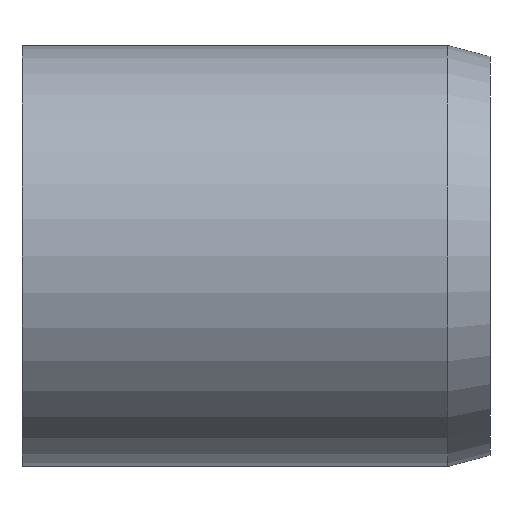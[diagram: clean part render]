
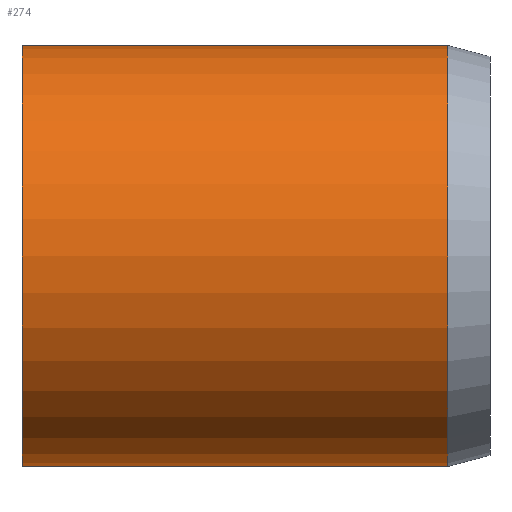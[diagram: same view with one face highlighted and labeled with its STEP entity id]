
A CAD part, left-side view. The second image highlights one B-rep face of the part: STEP entity #274.
In plain terms, the highlighted cylindrical face has radius 9 mm (diameter 18 mm), a partial arc.
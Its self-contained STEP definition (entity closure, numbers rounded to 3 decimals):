
#27 = LINE ( 'NONE', #279, #176 ) ;
#36 = CARTESIAN_POINT ( 'NONE',  ( 0., 1.8, 9. ) ) ;
#39 = EDGE_LOOP ( 'NONE', ( #212, #180, #81, #324 ) ) ;
#53 = DIRECTION ( 'NONE',  ( 0., -1., 0. ) ) ;
#59 = DIRECTION ( 'NONE',  ( 0., -1., 0. ) ) ;
#61 = CIRCLE ( 'NONE', #426, 9. ) ;
#65 = EDGE_CURVE ( 'NONE', #223, #288, #317, .T. ) ;
#66 = CARTESIAN_POINT ( 'NONE',  ( 0., 0., 9. ) ) ;
#69 = CARTESIAN_POINT ( 'NONE',  ( 0., 0., 0. ) ) ;
#81 = ORIENTED_EDGE ( 'NONE', *, *, #379, .T. ) ;
#111 = VERTEX_POINT ( 'NONE', #390 ) ;
#121 = CARTESIAN_POINT ( 'NONE',  ( 0., 1.8, 0. ) ) ;
#151 = DIRECTION ( 'NONE',  ( 0., -1., 0. ) ) ;
#159 = AXIS2_PLACEMENT_3D ( 'NONE', #121, #53, #410 ) ;
#176 = VECTOR ( 'NONE', #151, 1000. ) ;
#179 = EDGE_CURVE ( 'NONE', #111, #435, #61, .T. ) ;
#180 = ORIENTED_EDGE ( 'NONE', *, *, #179, .T. ) ;
#203 = VECTOR ( 'NONE', #207, 1000. ) ;
#207 = DIRECTION ( 'NONE',  ( 0., -1., 0. ) ) ;
#212 = ORIENTED_EDGE ( 'NONE', *, *, #298, .F. ) ;
#213 = FACE_OUTER_BOUND ( 'NONE', #39, .T. ) ;
#223 = VERTEX_POINT ( 'NONE', #36 ) ;
#245 = CARTESIAN_POINT ( 'NONE',  ( 0., 1.8, -9. ) ) ;
#269 = DIRECTION ( 'NONE',  ( 0., 0., -1. ) ) ;
#274 = ADVANCED_FACE ( 'NONE', ( #213 ), #386, .T. ) ;
#279 = CARTESIAN_POINT ( 'NONE',  ( 0., 0., -9. ) ) ;
#288 = VERTEX_POINT ( 'NONE', #245 ) ;
#298 = EDGE_CURVE ( 'NONE', #111, #223, #425, .T. ) ;
#317 = CIRCLE ( 'NONE', #159, 9. ) ;
#324 = ORIENTED_EDGE ( 'NONE', *, *, #65, .F. ) ;
#379 = EDGE_CURVE ( 'NONE', #435, #288, #27, .T. ) ;
#384 = DIRECTION ( 'NONE',  ( 0., 0., -1. ) ) ;
#386 = CYLINDRICAL_SURFACE ( 'NONE', #441, 9. ) ;
#390 = CARTESIAN_POINT ( 'NONE',  ( 0., 20., 9. ) ) ;
#410 = DIRECTION ( 'NONE',  ( 0., 0., -1. ) ) ;
#419 = CARTESIAN_POINT ( 'NONE',  ( 0., 20., 0. ) ) ;
#425 = LINE ( 'NONE', #66, #203 ) ;
#426 = AXIS2_PLACEMENT_3D ( 'NONE', #419, #59, #269 ) ;
#428 = DIRECTION ( 'NONE',  ( 0., -1., 0. ) ) ;
#435 = VERTEX_POINT ( 'NONE', #453 ) ;
#441 = AXIS2_PLACEMENT_3D ( 'NONE', #69, #428, #384 ) ;
#453 = CARTESIAN_POINT ( 'NONE',  ( 0., 20., -9. ) ) ;
